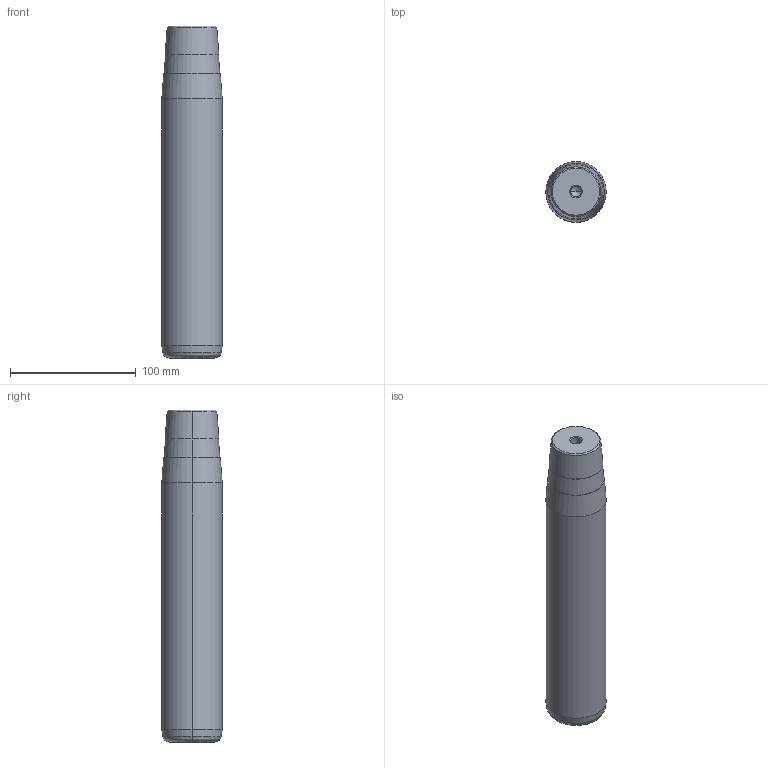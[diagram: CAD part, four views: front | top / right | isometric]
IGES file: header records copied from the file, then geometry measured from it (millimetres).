
Start section: START RECORD GO HERE.
Global section: file name: 722-48x224x264.igs; native system: DASSAULT SYSTEMES CATIA V5 R20 - www.3ds.com; preprocessor: CATIA Version 5 Release 20 ; author: Utente; organization: NB04-ASUS; date: 20210108.160227; units: millimetre
Bounding box: 48 x 48 x 264 mm (x, y, z)
Surface area: 42945.1 mm2 (no closed solid volume)
Topology: 0 solids, 0 shells, 32 faces, 128 edges, 124 vertices
Faces by surface type: revolution 30, plane 2
